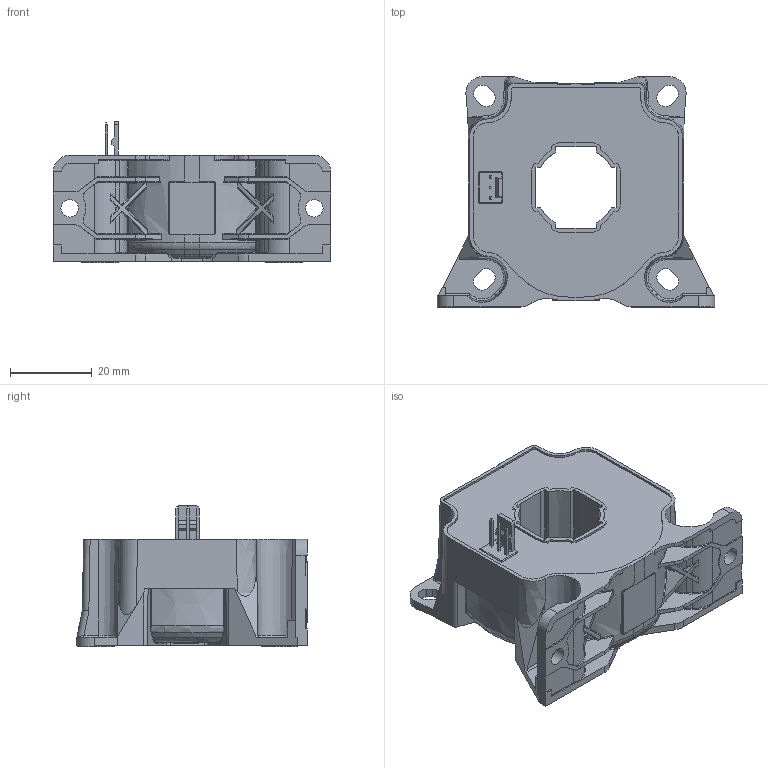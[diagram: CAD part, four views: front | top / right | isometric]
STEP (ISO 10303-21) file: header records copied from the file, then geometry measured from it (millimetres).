
FILE_DESCRIPTION(('Creo Elements/Direct Modeling STEP Export'),'2;1');
FILE_NAME('LF_310-S.stp','2014-03-10T13:58:27',(''),(''),'Creo Elements/Direct Modeling STEP processor for AP214 (Solid Model)','Creo Elements/Direct Modeling 17.0E 05-Feb-2012 (C) Parametric Technology GmbH','');
FILE_SCHEMA(('AUTOMOTIVE_DESIGN { 1 0 10303 214 1 1 1 1 }'));
Products named in the file (2): BBox_outline_A
Assembly tree (1 placements, depth 2):
  BBox_outline_A
    BBox_outline_A
Bounding box: 68 x 56.48 x 34.59 mm (x, y, z)
Volume: 50316.6 mm3; surface area: 17800.2 mm2
Topology: 1 solids, 1 shells, 1532 faces, 3970 edges, 2469 vertices
Faces by surface type: bspline 595, plane 592, cylinder 186, cone 97, torus 34, extrusion 24, sphere 4
Entity records: 134056 total; most frequent: CARTESIAN_POINT 101544, ORIENTED_EDGE 7912, DIRECTION 4312, EDGE_CURVE 3956, VERTEX_POINT 2469, VECTOR 1606, EDGE_LOOP 1589, LINE 1582
